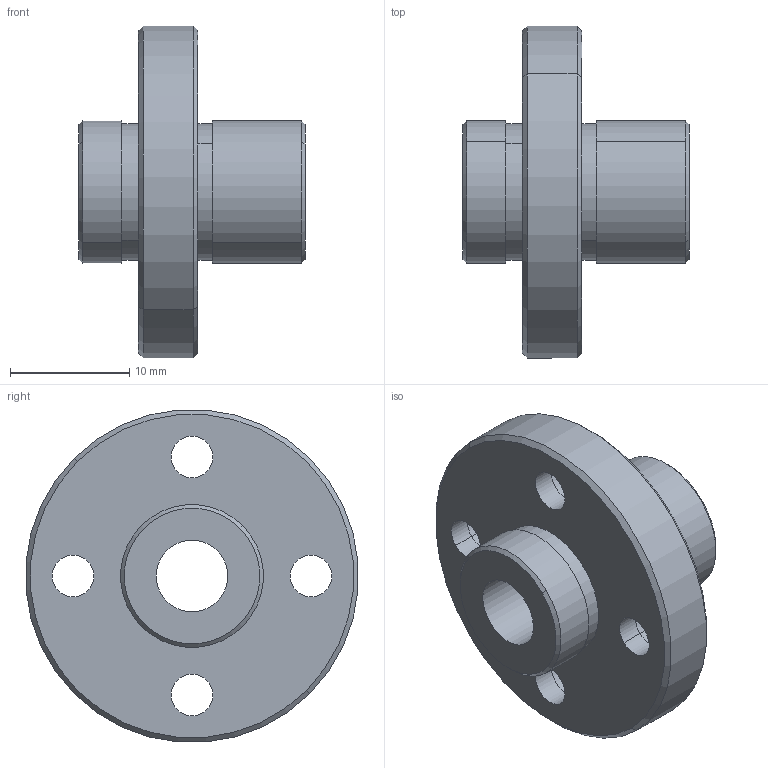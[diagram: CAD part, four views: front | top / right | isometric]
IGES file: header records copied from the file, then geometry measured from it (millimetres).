
Start section: 3D InterOp IGES (Version 21 0 1), Spatial Corp. Copyright (c) 1999-2007.
Global section: file name: NFID-6VUU.igs; native system: Spatial Corp.; preprocessor: 3D InterOp GENERIC/IGES 3.0; author: Noname; organization: Noname; date: 20220308.112005; units: millimetre
Bounding box: 19 x 27.89 x 27.89 mm (x, y, z)
Surface area: 2718.7 mm2 (no closed solid volume)
Topology: 0 solids, 0 shells, 46 faces, 208 edges, 208 vertices
Faces by surface type: revolution 36, extrusion 10
